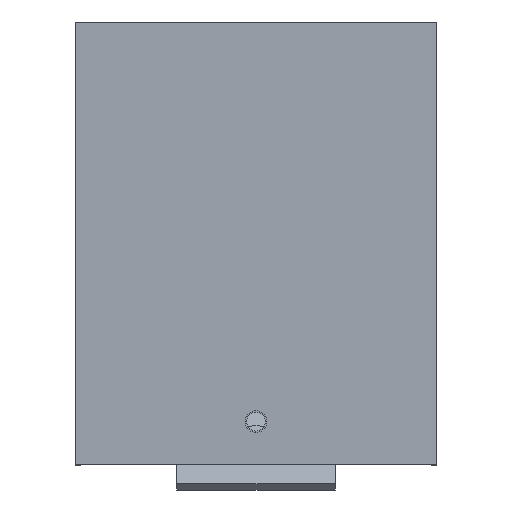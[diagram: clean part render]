
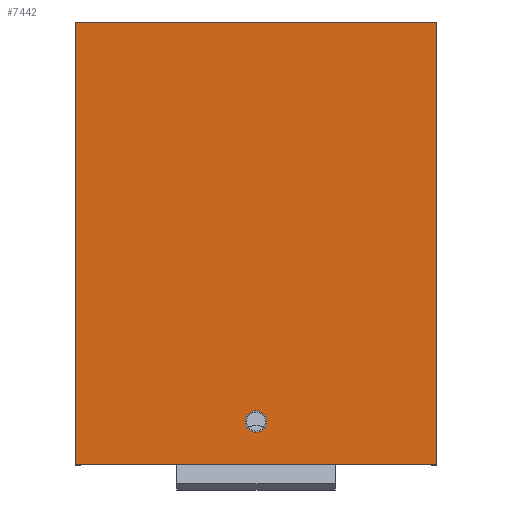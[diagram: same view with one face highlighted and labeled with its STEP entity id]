
A CAD part, top view. The second image highlights one B-rep face of the part: STEP entity #7442.
In plain terms, the highlighted planar face has unit normal (0, 0, 1) as drawn and (0, 1, 0) by its records, which use the part's own axes.
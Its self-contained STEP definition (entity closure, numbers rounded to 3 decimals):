
#6748 = PLANE('',#6749);
#6749 = AXIS2_PLACEMENT_3D('',#6750,#6751,#6752);
#6750 = CARTESIAN_POINT('',(-23.875,-42.,63.125));
#6751 = DIRECTION('',(-1.,0.,0.));
#6752 = DIRECTION('',(0.,0.,1.));
#6780 = PLANE('',#6781);
#6781 = AXIS2_PLACEMENT_3D('',#6782,#6783,#6784);
#6782 = CARTESIAN_POINT('',(-22.375,-9.5,-1.125));
#6783 = DIRECTION('',(0.,0.,1.));
#6784 = DIRECTION('',(0.,-1.,0.));
#6904 = VERTEX_POINT('',#6905);
#6905 = CARTESIAN_POINT('',(-23.875,2.,127.375));
#6919 = PLANE('',#6920);
#6920 = AXIS2_PLACEMENT_3D('',#6921,#6922,#6923);
#6921 = CARTESIAN_POINT('',(-22.375,-74.5,127.375));
#6922 = DIRECTION('',(0.,0.,-1.));
#6923 = DIRECTION('',(0.,1.,0.));
#6931 = EDGE_CURVE('',#6904,#6932,#6934,.T.);
#6932 = VERTEX_POINT('',#6933);
#6933 = CARTESIAN_POINT('',(-23.875,2.,-1.125));
#6934 = SURFACE_CURVE('',#6935,(#6939,#6946),.PCURVE_S1.);
#6935 = LINE('',#6936,#6937);
#6936 = CARTESIAN_POINT('',(-23.875,2.,31.));
#6937 = VECTOR('',#6938,1.);
#6938 = DIRECTION('',(0.,0.,-1.));
#6939 = PCURVE('',#6748,#6940);
#6940 = DEFINITIONAL_REPRESENTATION('',(#6941),#6945);
#6941 = LINE('',#6942,#6943);
#6942 = CARTESIAN_POINT('',(-32.125,44.));
#6943 = VECTOR('',#6944,1.);
#6944 = DIRECTION('',(-1.,0.));
#6945 = ( GEOMETRIC_REPRESENTATION_CONTEXT(2) 
PARAMETRIC_REPRESENTATION_CONTEXT() REPRESENTATION_CONTEXT('2D SPACE',''
  ) );
#6946 = PCURVE('',#6947,#6952);
#6947 = PLANE('',#6948);
#6948 = AXIS2_PLACEMENT_3D('',#6949,#6950,#6951);
#6949 = CARTESIAN_POINT('',(-12.375,2.,-1.125));
#6950 = DIRECTION('',(0.,1.,0.));
#6951 = DIRECTION('',(0.,0.,1.));
#6952 = DEFINITIONAL_REPRESENTATION('',(#6953),#6957);
#6953 = LINE('',#6954,#6955);
#6954 = CARTESIAN_POINT('',(32.125,-11.5));
#6955 = VECTOR('',#6956,1.);
#6956 = DIRECTION('',(-1.,0.));
#6957 = ( GEOMETRIC_REPRESENTATION_CONTEXT(2) 
PARAMETRIC_REPRESENTATION_CONTEXT() REPRESENTATION_CONTEXT('2D SPACE',''
  ) );
#7145 = VERTEX_POINT('',#7146);
#7146 = CARTESIAN_POINT('',(81.125,2.,-1.125));
#7160 = PLANE('',#7161);
#7161 = AXIS2_PLACEMENT_3D('',#7162,#7163,#7164);
#7162 = CARTESIAN_POINT('',(81.125,-42.,63.125));
#7163 = DIRECTION('',(-1.,0.,-0.));
#7164 = DIRECTION('',(0.,0.,-1.));
#7172 = EDGE_CURVE('',#6932,#7145,#7173,.T.);
#7173 = SURFACE_CURVE('',#7174,(#7178,#7185),.PCURVE_S1.);
#7174 = LINE('',#7175,#7176);
#7175 = CARTESIAN_POINT('',(-23.875,2.,-1.125));
#7176 = VECTOR('',#7177,1.);
#7177 = DIRECTION('',(1.,0.,0.));
#7178 = PCURVE('',#6780,#7179);
#7179 = DEFINITIONAL_REPRESENTATION('',(#7180),#7184);
#7180 = LINE('',#7181,#7182);
#7181 = CARTESIAN_POINT('',(-11.5,-1.5));
#7182 = VECTOR('',#7183,1.);
#7183 = DIRECTION('',(0.,1.));
#7184 = ( GEOMETRIC_REPRESENTATION_CONTEXT(2) 
PARAMETRIC_REPRESENTATION_CONTEXT() REPRESENTATION_CONTEXT('2D SPACE',''
  ) );
#7185 = PCURVE('',#6947,#7186);
#7186 = DEFINITIONAL_REPRESENTATION('',(#7187),#7191);
#7187 = LINE('',#7188,#7189);
#7188 = CARTESIAN_POINT('',(0.,-11.5));
#7189 = VECTOR('',#7190,1.);
#7190 = DIRECTION('',(0.,1.));
#7191 = ( GEOMETRIC_REPRESENTATION_CONTEXT(2) 
PARAMETRIC_REPRESENTATION_CONTEXT() REPRESENTATION_CONTEXT('2D SPACE',''
  ) );
#7326 = EDGE_CURVE('',#7327,#6904,#7329,.T.);
#7327 = VERTEX_POINT('',#7328);
#7328 = CARTESIAN_POINT('',(81.125,2.,127.375));
#7329 = SURFACE_CURVE('',#7330,(#7334,#7341),.PCURVE_S1.);
#7330 = LINE('',#7331,#7332);
#7331 = CARTESIAN_POINT('',(81.125,2.,127.375));
#7332 = VECTOR('',#7333,1.);
#7333 = DIRECTION('',(-1.,0.,0.));
#7334 = PCURVE('',#6919,#7335);
#7335 = DEFINITIONAL_REPRESENTATION('',(#7336),#7340);
#7336 = LINE('',#7337,#7338);
#7337 = CARTESIAN_POINT('',(76.5,103.5));
#7338 = VECTOR('',#7339,1.);
#7339 = DIRECTION('',(0.,-1.));
#7340 = ( GEOMETRIC_REPRESENTATION_CONTEXT(2) 
PARAMETRIC_REPRESENTATION_CONTEXT() REPRESENTATION_CONTEXT('2D SPACE',''
  ) );
#7341 = PCURVE('',#6947,#7342);
#7342 = DEFINITIONAL_REPRESENTATION('',(#7343),#7347);
#7343 = LINE('',#7344,#7345);
#7344 = CARTESIAN_POINT('',(128.5,93.5));
#7345 = VECTOR('',#7346,1.);
#7346 = DIRECTION('',(0.,-1.));
#7347 = ( GEOMETRIC_REPRESENTATION_CONTEXT(2) 
PARAMETRIC_REPRESENTATION_CONTEXT() REPRESENTATION_CONTEXT('2D SPACE',''
  ) );
#7442 = ADVANCED_FACE('',(#7443,#7468),#6947,.T.);
#7443 = FACE_BOUND('',#7444,.T.);
#7444 = EDGE_LOOP('',(#7445,#7446,#7447,#7448));
#7445 = ORIENTED_EDGE('',*,*,#7172,.F.);
#7446 = ORIENTED_EDGE('',*,*,#6931,.F.);
#7447 = ORIENTED_EDGE('',*,*,#7326,.F.);
#7448 = ORIENTED_EDGE('',*,*,#7449,.F.);
#7449 = EDGE_CURVE('',#7145,#7327,#7450,.T.);
#7450 = SURFACE_CURVE('',#7451,(#7455,#7461),.PCURVE_S1.);
#7451 = LINE('',#7452,#7453);
#7452 = CARTESIAN_POINT('',(81.125,2.,31.));
#7453 = VECTOR('',#7454,1.);
#7454 = DIRECTION('',(0.,0.,1.));
#7455 = PCURVE('',#6947,#7456);
#7456 = DEFINITIONAL_REPRESENTATION('',(#7457),#7460);
#7457 = B_SPLINE_CURVE_WITH_KNOTS('',1,(#7458,#7459),.UNSPECIFIED.,.F.,
  .F.,(2,2),(-161.708,225.958),.PIECEWISE_BEZIER_KNOTS.);
#7458 = CARTESIAN_POINT('',(-129.583,93.5));
#7459 = CARTESIAN_POINT('',(258.083,93.5));
#7460 = ( GEOMETRIC_REPRESENTATION_CONTEXT(2) 
PARAMETRIC_REPRESENTATION_CONTEXT() REPRESENTATION_CONTEXT('2D SPACE',''
  ) );
#7461 = PCURVE('',#7160,#7462);
#7462 = DEFINITIONAL_REPRESENTATION('',(#7463),#7467);
#7463 = LINE('',#7464,#7465);
#7464 = CARTESIAN_POINT('',(32.125,-44.));
#7465 = VECTOR('',#7466,1.);
#7466 = DIRECTION('',(-1.,0.));
#7467 = ( GEOMETRIC_REPRESENTATION_CONTEXT(2) 
PARAMETRIC_REPRESENTATION_CONTEXT() REPRESENTATION_CONTEXT('2D SPACE',''
  ) );
#7468 = FACE_BOUND('',#7469,.T.);
#7469 = EDGE_LOOP('',(#7470));
#7470 = ORIENTED_EDGE('',*,*,#7471,.T.);
#7471 = EDGE_CURVE('',#7472,#7472,#7474,.T.);
#7472 = VERTEX_POINT('',#7473);
#7473 = CARTESIAN_POINT('',(28.625,2.,8.225));
#7474 = SURFACE_CURVE('',#7475,(#7480,#7491),.PCURVE_S1.);
#7475 = CIRCLE('',#7476,3.15);
#7476 = AXIS2_PLACEMENT_3D('',#7477,#7478,#7479);
#7477 = CARTESIAN_POINT('',(28.625,2.,11.375));
#7478 = DIRECTION('',(0.,-1.,0.));
#7479 = DIRECTION('',(0.,0.,-1.));
#7480 = PCURVE('',#6947,#7481);
#7481 = DEFINITIONAL_REPRESENTATION('',(#7482),#7490);
#7482 = ( BOUNDED_CURVE() B_SPLINE_CURVE(2,(#7483,#7484,#7485,#7486,
#7487,#7488,#7489),.UNSPECIFIED.,.T.,.F.) B_SPLINE_CURVE_WITH_KNOTS((1,2
    ,2,2,2,1),(-2.094,0.,2.094,4.189,
6.283,8.378),.UNSPECIFIED.) CURVE() 
GEOMETRIC_REPRESENTATION_ITEM() RATIONAL_B_SPLINE_CURVE((1.,0.5,1.,0.5,
1.,0.5,1.)) REPRESENTATION_ITEM('') );
#7483 = CARTESIAN_POINT('',(9.35,41.));
#7484 = CARTESIAN_POINT('',(9.35,46.456));
#7485 = CARTESIAN_POINT('',(14.075,43.728));
#7486 = CARTESIAN_POINT('',(18.8,41.));
#7487 = CARTESIAN_POINT('',(14.075,38.272));
#7488 = CARTESIAN_POINT('',(9.35,35.544));
#7489 = CARTESIAN_POINT('',(9.35,41.));
#7490 = ( GEOMETRIC_REPRESENTATION_CONTEXT(2) 
PARAMETRIC_REPRESENTATION_CONTEXT() REPRESENTATION_CONTEXT('2D SPACE',''
  ) );
#7491 = PCURVE('',#7492,#7497);
#7492 = CYLINDRICAL_SURFACE('',#7493,3.15);
#7493 = AXIS2_PLACEMENT_3D('',#7494,#7495,#7496);
#7494 = CARTESIAN_POINT('',(28.625,-4.625,11.375));
#7495 = DIRECTION('',(0.,-1.,0.));
#7496 = DIRECTION('',(0.,0.,-1.));
#7497 = DEFINITIONAL_REPRESENTATION('',(#7498),#7502);
#7498 = LINE('',#7499,#7500);
#7499 = CARTESIAN_POINT('',(0.,-6.625));
#7500 = VECTOR('',#7501,1.);
#7501 = DIRECTION('',(1.,0.));
#7502 = ( GEOMETRIC_REPRESENTATION_CONTEXT(2) 
PARAMETRIC_REPRESENTATION_CONTEXT() REPRESENTATION_CONTEXT('2D SPACE',''
  ) );
